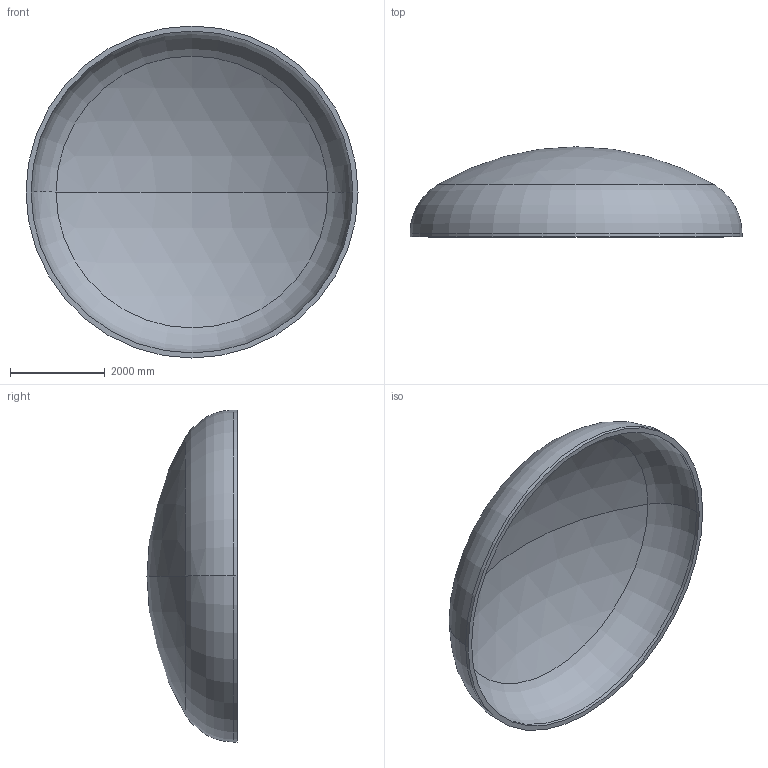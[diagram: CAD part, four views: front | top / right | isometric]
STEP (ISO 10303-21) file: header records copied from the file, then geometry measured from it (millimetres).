
FILE_DESCRIPTION (( 'STEP AP203' ), '1' );
FILE_NAME ('DIN 28013 Korbbogenform_-_Boden DIN 28013 - 7000 x 75 - I - s=106.step', '2016-07-04T10:50:18', ( '' ), ( '' ), 'SwSTEP 2.0', 'SolidWorks 2013', '' );
FILE_SCHEMA (( 'CONFIG_CONTROL_DESIGN' ));
Length unit declared in the file: millimetre
Products named in the file (1): DIN 28013 Korbbogenform_-_Boden DIN 28013 - 7000 x 75 - I - s=106
Bounding box: 7000 x 1898.24 x 7000 mm (x, y, z)
Volume: 5712209738.4 mm3; surface area: 110096796.6 mm2
Topology: 1 solids, 1 shells, 13 faces, 24 edges, 14 vertices
Faces by surface type: torus 4, cylinder 4, sphere 4, plane 1
Entity records: 407 total; most frequent: DIRECTION 72, CARTESIAN_POINT 52, ORIENTED_EDGE 48, AXIS2_PLACEMENT_3D 34, EDGE_CURVE 24, CIRCLE 20, EDGE_LOOP 14, VERTEX_POINT 14
